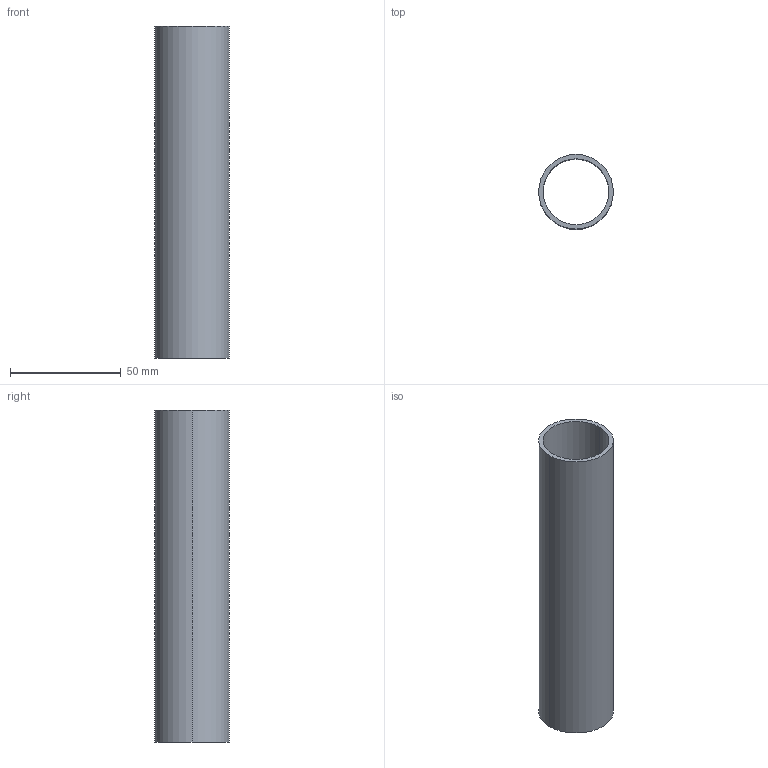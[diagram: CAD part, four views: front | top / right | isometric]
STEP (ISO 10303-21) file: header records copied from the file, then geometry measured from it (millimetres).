
FILE_DESCRIPTION (( 'STEP AP203' ), '1' );
FILE_NAME ('084.802.029.STEP', '2013-02-01T09:14:12', ( 'Alusic' ), ( 'Alusic' ), 'SwSTEP 2.0', 'SolidWorks 2011', '' );
FILE_SCHEMA (( 'CONFIG_CONTROL_DESIGN' ));
Length unit declared in the file: millimetre
Products named in the file (1): 084.802.029
Bounding box: 33.7 x 33.7 x 150 mm (x, y, z)
Volume: 29876.5 mm3; surface area: 30274.9 mm2
Topology: 1 solids, 1 shells, 6 faces, 12 edges, 8 vertices
Faces by surface type: cylinder 4, plane 2
Entity records: 245 total; most frequent: DIRECTION 34, CARTESIAN_POINT 27, ORIENTED_EDGE 24, AXIS2_PLACEMENT_3D 15, EDGE_CURVE 12, PERSON_AND_ORGANIZATION 8, CIRCLE 8, EDGE_LOOP 8
